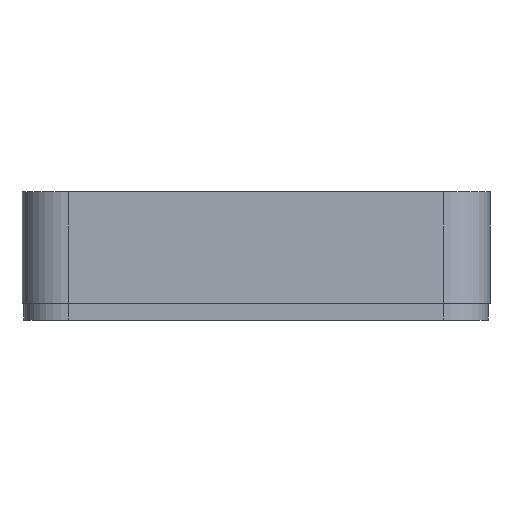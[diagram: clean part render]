
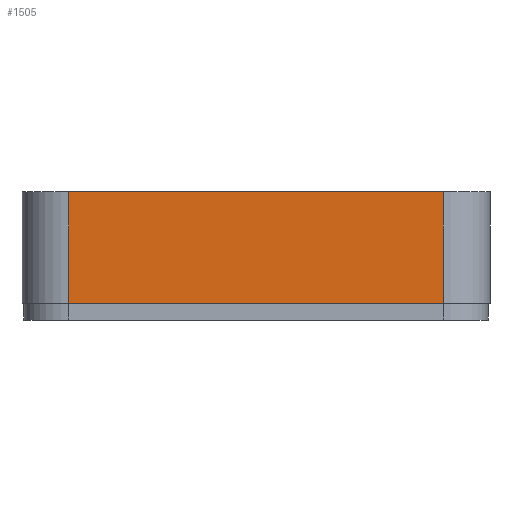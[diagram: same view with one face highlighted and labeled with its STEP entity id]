
A CAD part, left-side view. The second image highlights one B-rep face of the part: STEP entity #1505.
In plain terms, the highlighted planar face has unit normal (-1, 0, 0).
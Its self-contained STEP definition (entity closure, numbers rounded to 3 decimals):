
#66 = CYLINDRICAL_SURFACE('',#67,5.);
#67 = AXIS2_PLACEMENT_3D('',#68,#69,#70);
#68 = CARTESIAN_POINT('',(-18.5,-20.,1.8));
#69 = DIRECTION('',(-0.,-0.,-1.));
#70 = DIRECTION('',(1.,0.,0.));
#94 = PLANE('',#95);
#95 = AXIS2_PLACEMENT_3D('',#96,#97,#98);
#96 = CARTESIAN_POINT('',(0.,0.,13.7));
#97 = DIRECTION('',(0.,0.,1.));
#98 = DIRECTION('',(1.,0.,-0.));
#148 = PLANE('',#149);
#149 = AXIS2_PLACEMENT_3D('',#150,#151,#152);
#150 = CARTESIAN_POINT('',(0.,0.,1.8));
#151 = DIRECTION('',(0.,0.,1.));
#152 = DIRECTION('',(1.,0.,-0.));
#270 = VERTEX_POINT('',#271);
#271 = CARTESIAN_POINT('',(-23.5,-20.,1.8));
#293 = EDGE_CURVE('',#270,#294,#296,.T.);
#294 = VERTEX_POINT('',#295);
#295 = CARTESIAN_POINT('',(-23.5,-20.,13.7));
#296 = SURFACE_CURVE('',#297,(#301,#308),.PCURVE_S1.);
#297 = LINE('',#298,#299);
#298 = CARTESIAN_POINT('',(-23.5,-20.,1.8));
#299 = VECTOR('',#300,1.);
#300 = DIRECTION('',(0.,0.,1.));
#301 = PCURVE('',#66,#302);
#302 = DEFINITIONAL_REPRESENTATION('',(#303),#307);
#303 = LINE('',#304,#305);
#304 = CARTESIAN_POINT('',(-3.142,0.));
#305 = VECTOR('',#306,1.);
#306 = DIRECTION('',(-0.,-1.));
#307 = ( GEOMETRIC_REPRESENTATION_CONTEXT(2) 
PARAMETRIC_REPRESENTATION_CONTEXT() REPRESENTATION_CONTEXT('2D SPACE',''
  ) );
#308 = PCURVE('',#309,#314);
#309 = PLANE('',#310);
#310 = AXIS2_PLACEMENT_3D('',#311,#312,#313);
#311 = CARTESIAN_POINT('',(-23.5,20.,1.8));
#312 = DIRECTION('',(1.,0.,-0.));
#313 = DIRECTION('',(0.,-1.,0.));
#314 = DEFINITIONAL_REPRESENTATION('',(#315),#319);
#315 = LINE('',#316,#317);
#316 = CARTESIAN_POINT('',(40.,0.));
#317 = VECTOR('',#318,1.);
#318 = DIRECTION('',(0.,-1.));
#319 = ( GEOMETRIC_REPRESENTATION_CONTEXT(2) 
PARAMETRIC_REPRESENTATION_CONTEXT() REPRESENTATION_CONTEXT('2D SPACE',''
  ) );
#347 = EDGE_CURVE('',#348,#270,#350,.T.);
#348 = VERTEX_POINT('',#349);
#349 = CARTESIAN_POINT('',(-23.5,20.,1.8));
#350 = SURFACE_CURVE('',#351,(#355,#362),.PCURVE_S1.);
#351 = LINE('',#352,#353);
#352 = CARTESIAN_POINT('',(-23.5,20.,1.8));
#353 = VECTOR('',#354,1.);
#354 = DIRECTION('',(0.,-1.,0.));
#355 = PCURVE('',#148,#356);
#356 = DEFINITIONAL_REPRESENTATION('',(#357),#361);
#357 = LINE('',#358,#359);
#358 = CARTESIAN_POINT('',(-23.5,20.));
#359 = VECTOR('',#360,1.);
#360 = DIRECTION('',(0.,-1.));
#361 = ( GEOMETRIC_REPRESENTATION_CONTEXT(2) 
PARAMETRIC_REPRESENTATION_CONTEXT() REPRESENTATION_CONTEXT('2D SPACE',''
  ) );
#362 = PCURVE('',#309,#363);
#363 = DEFINITIONAL_REPRESENTATION('',(#364),#368);
#364 = LINE('',#365,#366);
#365 = CARTESIAN_POINT('',(0.,0.));
#366 = VECTOR('',#367,1.);
#367 = DIRECTION('',(1.,0.));
#368 = ( GEOMETRIC_REPRESENTATION_CONTEXT(2) 
PARAMETRIC_REPRESENTATION_CONTEXT() REPRESENTATION_CONTEXT('2D SPACE',''
  ) );
#496 = CYLINDRICAL_SURFACE('',#497,5.);
#497 = AXIS2_PLACEMENT_3D('',#498,#499,#500);
#498 = CARTESIAN_POINT('',(-18.5,20.,1.8));
#499 = DIRECTION('',(-0.,-0.,-1.));
#500 = DIRECTION('',(1.,0.,0.));
#1017 = EDGE_CURVE('',#1018,#294,#1020,.T.);
#1018 = VERTEX_POINT('',#1019);
#1019 = CARTESIAN_POINT('',(-23.5,20.,13.7));
#1020 = SURFACE_CURVE('',#1021,(#1025,#1032),.PCURVE_S1.);
#1021 = LINE('',#1022,#1023);
#1022 = CARTESIAN_POINT('',(-23.5,20.,13.7));
#1023 = VECTOR('',#1024,1.);
#1024 = DIRECTION('',(0.,-1.,0.));
#1025 = PCURVE('',#94,#1026);
#1026 = DEFINITIONAL_REPRESENTATION('',(#1027),#1031);
#1027 = LINE('',#1028,#1029);
#1028 = CARTESIAN_POINT('',(-23.5,20.));
#1029 = VECTOR('',#1030,1.);
#1030 = DIRECTION('',(0.,-1.));
#1031 = ( GEOMETRIC_REPRESENTATION_CONTEXT(2) 
PARAMETRIC_REPRESENTATION_CONTEXT() REPRESENTATION_CONTEXT('2D SPACE',''
  ) );
#1032 = PCURVE('',#309,#1033);
#1033 = DEFINITIONAL_REPRESENTATION('',(#1034),#1038);
#1034 = LINE('',#1035,#1036);
#1035 = CARTESIAN_POINT('',(0.,-11.9));
#1036 = VECTOR('',#1037,1.);
#1037 = DIRECTION('',(1.,0.));
#1038 = ( GEOMETRIC_REPRESENTATION_CONTEXT(2) 
PARAMETRIC_REPRESENTATION_CONTEXT() REPRESENTATION_CONTEXT('2D SPACE',''
  ) );
#1505 = ADVANCED_FACE('',(#1506),#309,.F.);
#1506 = FACE_BOUND('',#1507,.F.);
#1507 = EDGE_LOOP('',(#1508,#1529,#1530,#1531));
#1508 = ORIENTED_EDGE('',*,*,#1509,.T.);
#1509 = EDGE_CURVE('',#348,#1018,#1510,.T.);
#1510 = SURFACE_CURVE('',#1511,(#1515,#1522),.PCURVE_S1.);
#1511 = LINE('',#1512,#1513);
#1512 = CARTESIAN_POINT('',(-23.5,20.,1.8));
#1513 = VECTOR('',#1514,1.);
#1514 = DIRECTION('',(0.,0.,1.));
#1515 = PCURVE('',#309,#1516);
#1516 = DEFINITIONAL_REPRESENTATION('',(#1517),#1521);
#1517 = LINE('',#1518,#1519);
#1518 = CARTESIAN_POINT('',(0.,0.));
#1519 = VECTOR('',#1520,1.);
#1520 = DIRECTION('',(0.,-1.));
#1521 = ( GEOMETRIC_REPRESENTATION_CONTEXT(2) 
PARAMETRIC_REPRESENTATION_CONTEXT() REPRESENTATION_CONTEXT('2D SPACE',''
  ) );
#1522 = PCURVE('',#496,#1523);
#1523 = DEFINITIONAL_REPRESENTATION('',(#1524),#1528);
#1524 = LINE('',#1525,#1526);
#1525 = CARTESIAN_POINT('',(-3.142,0.));
#1526 = VECTOR('',#1527,1.);
#1527 = DIRECTION('',(-0.,-1.));
#1528 = ( GEOMETRIC_REPRESENTATION_CONTEXT(2) 
PARAMETRIC_REPRESENTATION_CONTEXT() REPRESENTATION_CONTEXT('2D SPACE',''
  ) );
#1529 = ORIENTED_EDGE('',*,*,#1017,.T.);
#1530 = ORIENTED_EDGE('',*,*,#293,.F.);
#1531 = ORIENTED_EDGE('',*,*,#347,.F.);
